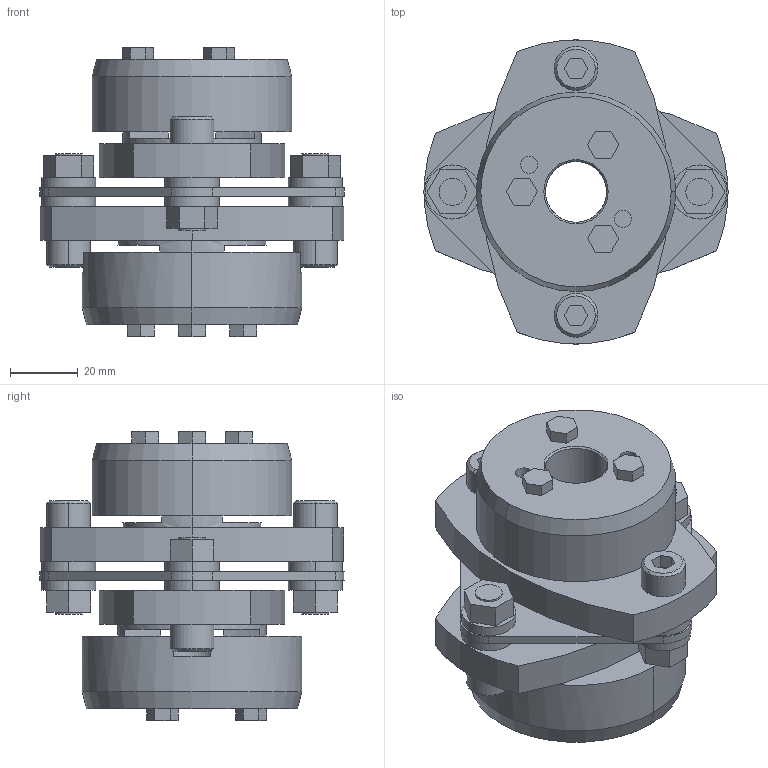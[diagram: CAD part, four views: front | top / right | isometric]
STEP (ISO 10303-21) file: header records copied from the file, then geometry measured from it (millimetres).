
FILE_DESCRIPTION((''),'2;1');
FILE_NAME('LCS-90T7-18×22.stp','2015-11-01T20:10:34',(''),(''),'AutoCAD STEP 2000i','AutoCAD 2000i',', , ');
FILE_SCHEMA(('CONFIG_CONTROL_DESIGN'));
Length unit declared in the file: millimetre
Products named in the file (8): LCS-90T7-19×20; 忣兜1; LC90T7-T020-1; LC90T7-T019-1; LC90T7-T019; LC90-B019-1; LC90-B019; LCS90-ITA
Assembly tree (7 placements, depth 2):
  LCS-90T7-19×20
    忣兜1
    LC90T7-T020-1
    LC90T7-T019-1
    LC90T7-T019
    LC90-B019-1
    LC90-B019
    LCS90-ITA
Bounding box: 90 x 89.94 x 85.5 mm (x, y, z)
Volume: 218964.3 mm3; surface area: 53983.3 mm2
Topology: 1 solids, 1 shells, 236 faces, 580 edges, 380 vertices
Faces by surface type: plane 134, cylinder 82, cone 20
Entity records: 7217 total; most frequent: DIRECTION 1272, CARTESIAN_POINT 1204, ORIENTED_EDGE 1160, EDGE_CURVE 580, AXIS2_PLACEMENT_3D 448, VERTEX_POINT 380, VECTOR 376, LINE 376
